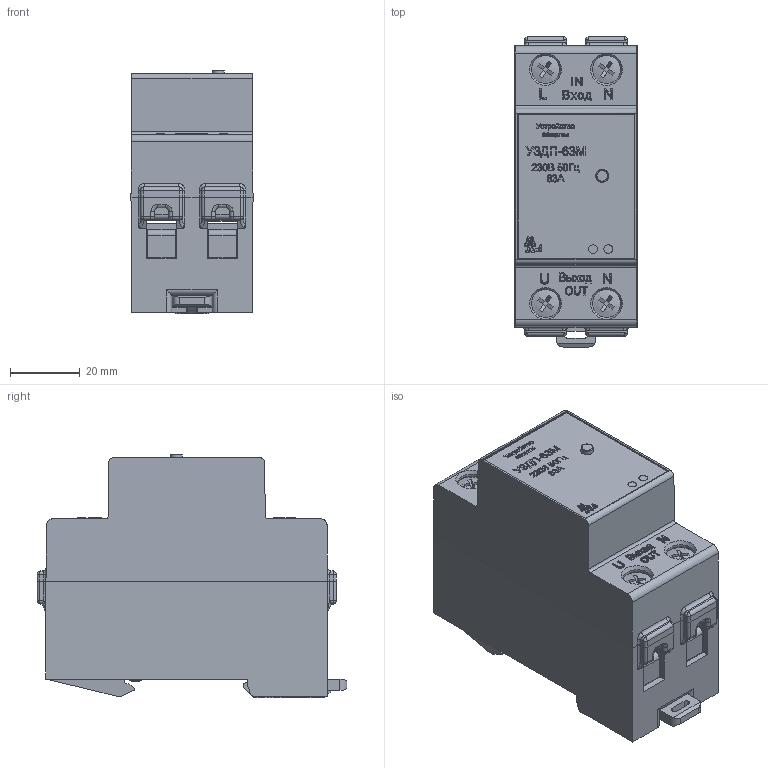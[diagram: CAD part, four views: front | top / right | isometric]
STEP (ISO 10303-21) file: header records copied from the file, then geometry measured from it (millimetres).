
FILE_DESCRIPTION(('STEP AP242'), '1');
FILE_NAME('ﾑ碚濱ﾓﾇﾄﾏ-63ﾌ', '', ('UNSPECIFIED'), ('UNSPECIFIED'), 'C3D Converter', 'C3D Toolkit', '');
FILE_SCHEMA(('AP242_MANAGED_MODEL_BASED_3D_ENGINEERING_MIM_LF { 1 0 10303 442 1 1 4 }'));
Length unit declared in the file: millimetre
Products named in the file (13): ___UZM80__ASM_v01_SimpleModel; UZM-80_bottom_v01_Џｮ гｬｮｫзｭЁо; UZM-80_top_v01_Џｮ гｬｮｫзｭЁо; UZM-80_lock_v0_Џｮ гｬｮｫзｭЁо; 77500219_build20150420; UZM-80_Terminal_Cage_v0; Screw_Headtype_=[)_+_(configurable)_M6_L15_Head10x3.5
Assembly tree (15 placements, depth 3):
  ___UZM80__ASM_v01_SimpleModel
    UZM-80_bottom_v01_Џｮ гｬｮｫзｭЁо
    UZM-80_top_v01_Џｮ гｬｮｫзｭЁо
    UZM-80_lock_v0_Џｮ гｬｮｫзｭЁо
    (unnamed)  x4
      77500219_build20150420
      UZM-80_Terminal_Cage_v0
      Screw_Headtype_=[)_+_(configurable)_M6_L15_Head10x3.5
    (unnamed)
    (unnamed)
    (unnamed)
    (unnamed)
    (unnamed)
Bounding box: 35 x 88.85 x 69.9 mm (x, y, z)
Volume: 46563.4 mm3; surface area: 62733.9 mm2
Topology: 22 solids, 22 shells, 4161 faces, 11594 edges, 7537 vertices
Faces by surface type: plane 2939, extrusion 484, cylinder 438, bspline 180, cone 91, torus 17, sphere 12
Full cylindrical faces by diameter (mm): 2.5 x6, 3.5 x1, 3.7 x1, 5 x8, 8 x4, 10 x4
Entity records: 175262 total; most frequent: CARTESIAN_POINT 51865, ORIENTED_EDGE 21052, DIRECTION 15772, EDGE_CURVE 10526, VECTOR 8746, LINE 8262, VERTEX_POINT 6909, EDGE_LOOP 3941
